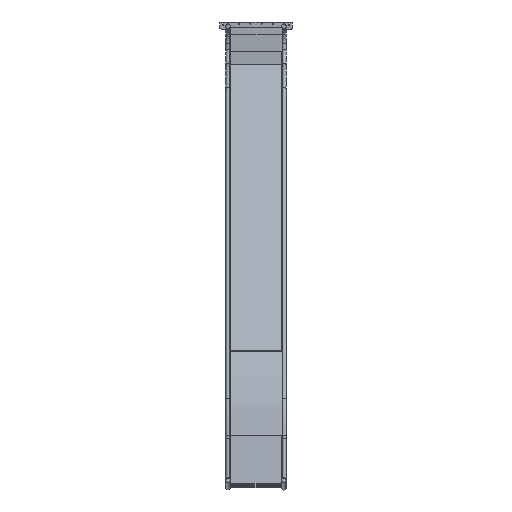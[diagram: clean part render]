
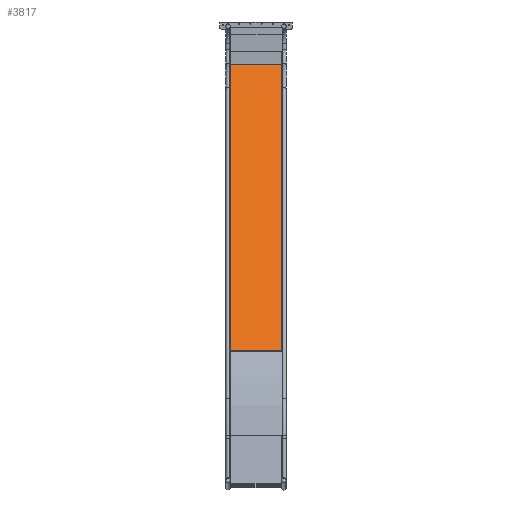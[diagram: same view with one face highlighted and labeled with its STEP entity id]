
A CAD part, left-side view. The second image highlights one B-rep face of the part: STEP entity #3817.
In plain terms, the highlighted planar face has unit normal (-0.788, 0, 0.616) as drawn and (0, 0, 1) by its records, which use the part's own axes.
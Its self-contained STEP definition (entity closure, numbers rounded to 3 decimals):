
#299=FACE_OUTER_BOUND('',#536,.T.);
#536=EDGE_LOOP('',(#2715,#2716,#2717,#2718,#2719,#2720,#2721,#2722));
#911=LINE('',#6069,#1285);
#931=LINE('',#6125,#1305);
#933=LINE('',#6129,#1307);
#938=LINE('',#6330,#1312);
#955=LINE('',#6370,#1329);
#956=LINE('',#6372,#1330);
#958=LINE('',#6376,#1332);
#960=LINE('',#6396,#1334);
#1285=VECTOR('',#4672,10.);
#1305=VECTOR('',#4728,10.);
#1307=VECTOR('',#4732,10.);
#1312=VECTOR('',#4743,10.);
#1329=VECTOR('',#4786,10.);
#1330=VECTOR('',#4789,10.);
#1332=VECTOR('',#4793,10.);
#1334=VECTOR('',#4801,10.);
#1644=VERTEX_POINT('',#6029);
#1647=VERTEX_POINT('',#6037);
#1674=VERTEX_POINT('',#6105);
#1677=VERTEX_POINT('',#6119);
#1678=VERTEX_POINT('',#6128);
#1679=VERTEX_POINT('',#6132);
#1691=VERTEX_POINT('',#6368);
#1692=VERTEX_POINT('',#6374);
#2002=EDGE_CURVE('',#1644,#1647,#911,.T.);
#2030=EDGE_CURVE('',#1674,#1677,#931,.T.);
#2032=EDGE_CURVE('',#1674,#1678,#933,.T.);
#2039=EDGE_CURVE('',#1644,#1679,#938,.T.);
#2059=EDGE_CURVE('',#1691,#1677,#955,.T.);
#2060=EDGE_CURVE('',#1678,#1679,#956,.T.);
#2062=EDGE_CURVE('',#1692,#1691,#958,.T.);
#2067=EDGE_CURVE('',#1692,#1647,#960,.T.);
#2715=ORIENTED_EDGE('',*,*,#2030,.T.);
#2716=ORIENTED_EDGE('',*,*,#2059,.F.);
#2717=ORIENTED_EDGE('',*,*,#2062,.F.);
#2718=ORIENTED_EDGE('',*,*,#2067,.T.);
#2719=ORIENTED_EDGE('',*,*,#2002,.F.);
#2720=ORIENTED_EDGE('',*,*,#2039,.T.);
#2721=ORIENTED_EDGE('',*,*,#2060,.F.);
#2722=ORIENTED_EDGE('',*,*,#2032,.F.);
#3655=PLANE('',#4267);
#3817=ADVANCED_FACE('',(#299),#3655,.F.);
#4267=AXIS2_PLACEMENT_3D('',#6489,#4811,#4812);
#4672=DIRECTION('',(0.,1.,0.));
#4728=DIRECTION('',(0.,1.,0.));
#4732=DIRECTION('',(-1.,0.,0.));
#4743=DIRECTION('',(1.,0.,0.));
#4786=DIRECTION('',(1.,0.,0.));
#4789=DIRECTION('',(0.,-1.,0.));
#4793=DIRECTION('',(0.,-1.,0.));
#4801=DIRECTION('',(-1.,0.,0.));
#4811=DIRECTION('center_axis',(0.,0.,-1.));
#4812=DIRECTION('ref_axis',(0.,1.,0.));
#6029=CARTESIAN_POINT('',(-3087.964,4.,-540.524));
#6037=CARTESIAN_POINT('',(-3087.964,427.476,-540.524));
#6069=CARTESIAN_POINT('',(-3087.964,-146.262,-540.524));
#6105=CARTESIAN_POINT('',(-97.342,5.765,-540.524));
#6119=CARTESIAN_POINT('',(-97.342,425.765,-540.524));
#6125=CARTESIAN_POINT('',(-97.342,320.765,-540.524));
#6128=CARTESIAN_POINT('',(-98.919,5.765,-540.524));
#6129=CARTESIAN_POINT('',(-97.009,5.765,-540.524));
#6132=CARTESIAN_POINT('',(-98.919,4.,-540.524));
#6330=CARTESIAN_POINT('',(-315.82,4.,-540.524));
#6368=CARTESIAN_POINT('',(-98.919,425.765,-540.524));
#6370=CARTESIAN_POINT('',(-98.919,425.765,-540.524));
#6372=CARTESIAN_POINT('',(-98.919,5.765,-540.524));
#6374=CARTESIAN_POINT('',(-98.919,427.476,-540.524));
#6376=CARTESIAN_POINT('',(-98.919,430.289,-540.524));
#6396=CARTESIAN_POINT('',(-152.797,427.476,-540.524));
#6489=CARTESIAN_POINT('Origin',(-206.675,215.765,-540.524));
